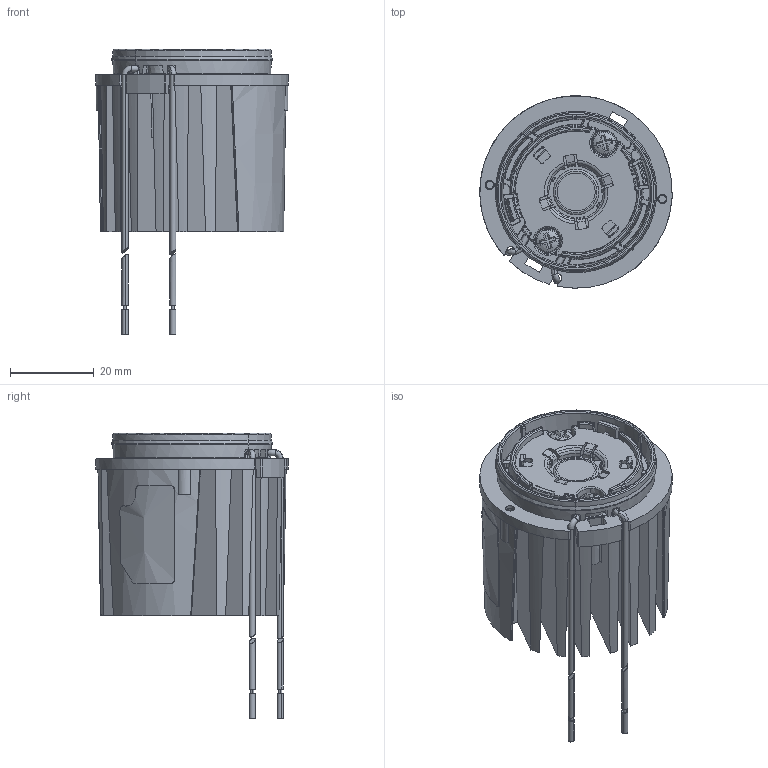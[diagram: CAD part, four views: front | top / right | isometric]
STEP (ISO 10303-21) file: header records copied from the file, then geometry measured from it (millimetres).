
FILE_DESCRIPTION(('Creo Elements/Direct Modeling STEP Export'),'2;1');
FILE_NAME('Engine-VCA2-123_PLUS_150mA_36V_A.stp','2023-08-09T14:51:22',(''),(''),'Creo Elements/Direct Modeling STEP processor for AP214 (Solid Model)','Creo Elements/Direct Modeling 20.0 12-Nov-2016 (C) Parametric Technology GmbH','');
FILE_SCHEMA(('AUTOMOTIVE_DESIGN { 1 0 10303 214 1 1 1 1 }'));
Length unit declared in the file: millimetre
Products named in the file (19): DISS_501_D46; ETICHETTA; VCA123_1; CONNETTORE; LED_1; SERRACAVO; SERRACAVO_H30; HOLDER_13_5X13_5; COMPLESSIVO_DMS123; V8_BXRE_METAL_ASM; V8_BXRE; CAVO_2_2; CAVO_2; CAVO_2_1; CAVO_1_1; CABLAGGIO; LED; ACTIVE_EPLUS-EVOLVE_6_2_VCA2-12_ASM; Engine-VCA2-123_PLUS_150mA_36V.stp
Assembly tree (18 placements, depth 7):
  Engine-VCA2-123_PLUS_150mA_36V.stp
    ACTIVE_EPLUS-EVOLVE_6_2_VCA2-12_ASM
      LED
        CABLAGGIO
          CAVO_1_1
          CAVO_2_1
          CAVO_2
          CAVO_2_2
        V8_BXRE
          V8_BXRE_METAL_ASM
        COMPLESSIVO_DMS123
          HOLDER_13_5X13_5
          SERRACAVO_H30
            SERRACAVO
            LED_1
              CONNETTORE
              VCA123_1
      ETICHETTA
      DISS_501_D46
Bounding box: 45.95 x 46 x 68.19 mm (x, y, z)
Volume: 32325.1 mm3; surface area: 33323.7 mm2
Topology: 8 solids, 8 shells, 1402 faces, 3910 edges, 2556 vertices
Faces by surface type: plane 591, bspline 286, cylinder 284, cone 144, torus 93, sphere 4
Entity records: 114513 total; most frequent: CARTESIAN_POINT 72845, ORIENTED_EDGE 7820, DIRECTION 6083, EDGE_CURVE 3910, VERTEX_POINT 2556, AXIS2_PLACEMENT_3D 2089, VECTOR 1905, LINE 1905
